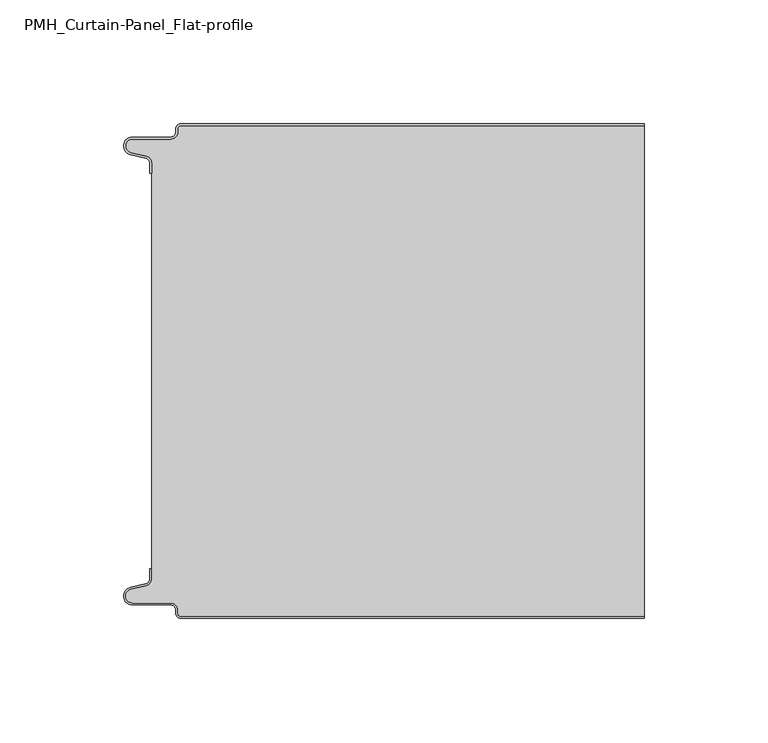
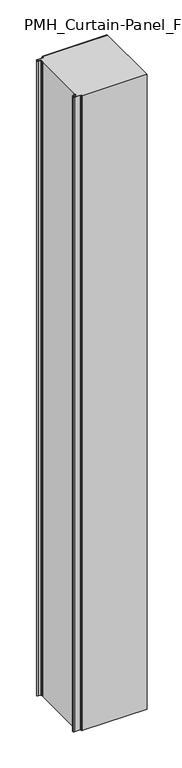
"""IFC4 building model written with IfcOpenShell, lengths in millimetres: plate geometry, PMH_Curtain-Panel_Flat-profile : ACH_PMH_Stone-wool-Panel_200M."""

from ifc_helpers import new_model, si_unit, point, frame_2d, origin, origin_with_axes, place, context, project, spatial, polyline, circle_curve, trimmed, segment, composite_curve, outline, extrude, source, transform, mapped, element, save


def pmh_curtain_panel_flat_profile_756ba8ea(model_context):
    return source(origin(), model_context, "Body", "SweptSolid", [
        extrude(outline(composite_curve([segment(trimmed(circle_curve(frame_2d((-87.4119739, -2.0)), 1.2), [point((-87.4119739, -0.8))], [point((-88.6119739, -2.0))], True, "CARTESIAN"), True, "CONTINUOUS"), segment(polyline([(-88.6119739, -2.0), (-88.6119739, -3.4)]), True, "CONTINUOUS"), segment(trimmed(circle_curve(frame_2d((-91.4119739, -3.4)), 2.8), [point((-88.6119739, -3.4))], [point((-91.4119739, -6.2))], False, "CARTESIAN"), True, "CONTINUOUS"), segment(polyline([(-91.4119739, -6.2), (-106.9119739, -6.2)]), True, "CONTINUOUS"), segment(trimmed(circle_curve(frame_2d((-106.9119739, -9.0)), 2.8), [point((-106.9119739, -6.2))], [point((-107.541837, -11.7282362))], True, "CARTESIAN"), True, "CONTINUOUS"), segment(polyline([(-107.541837, -11.7282362), (-101.3821109, -13.150321)]), True, "CONTINUOUS"), segment(trimmed(circle_curve(frame_2d((-102.0119739, -15.878557)), 2.8), [point((-101.3821109, -13.150321))], [point((-99.2119739, -15.878557))], False, "CARTESIAN"), True, "CONTINUOUS"), segment(polyline([(-99.2119739, -15.878557), (-99.2119739, -20.0), (-100.0119739, -20.0), (-100.0119739, -15.878557)]), True, "CONTINUOUS"), segment(trimmed(circle_curve(frame_2d((-102.0119739, -15.878557)), 2.0), [point((-100.0119739, -15.878557))], [point((-101.5620718, -13.9298169))], True, "CARTESIAN"), True, "CONTINUOUS"), segment(polyline([(-101.5620718, -13.9298169), (-107.7217978, -12.507732)]), True, "CONTINUOUS"), segment(trimmed(circle_curve(frame_2d((-106.9119739, -9.0)), 3.6), [point((-107.7217978, -12.507732))], [point((-106.9119739, -5.4))], False, "CARTESIAN"), True, "CONTINUOUS"), segment(polyline([(-106.9119739, -5.4), (-91.4119739, -5.4)]), True, "CONTINUOUS"), segment(trimmed(circle_curve(frame_2d((-91.4119739, -3.4)), 2.0), [point((-91.4119739, -5.4))], [point((-89.4119739, -3.4))], True, "CARTESIAN"), True, "CONTINUOUS"), segment(polyline([(-89.4119739, -3.4), (-89.4119739, -2.0)]), True, "CONTINUOUS"), segment(trimmed(circle_curve(frame_2d((-87.4119739, -2.0)), 2.0), [point((-89.4119739, -2.0))], [point((-87.4119739, 0.0))], False, "CARTESIAN"), True, "CONTINUOUS"), segment(polyline([(-87.4119739, 0.0), (100.0119739, 0.0), (100.0119739, -0.8), (-87.4119739, -0.8)]), True, "CONTINUOUS")], self_intersect=False)), origin_with_axes(), (0.0, 0.0, 1.0), 1945.7507136),
        extrude(outline(composite_curve([segment(polyline([(-99.2119739, -184.1214426), (-99.2119739, -15.8785573)]), True, "CONTINUOUS"), segment(trimmed(circle_curve(frame_2d((-102.0119739, -15.8785573)), 2.8), [point((-99.2119739, -15.8785573))], [point((-101.3821109, -13.1503212))], True, "CARTESIAN"), True, "CONTINUOUS"), segment(polyline([(-101.3821109, -13.1503212), (-107.541837, -11.7282362)]), True, "CONTINUOUS"), segment(trimmed(circle_curve(frame_2d((-106.911974, -9.0)), 2.8), [point((-107.541837, -11.7282362))], [point((-106.911974, -6.2))], False, "CARTESIAN"), True, "CONTINUOUS"), segment(polyline([(-106.911974, -6.2), (-91.411974, -6.2)]), True, "CONTINUOUS"), segment(trimmed(circle_curve(frame_2d((-91.411974, -3.4)), 2.8), [point((-91.411974, -6.2))], [point((-88.611974, -3.4))], True, "CARTESIAN"), True, "CONTINUOUS"), segment(polyline([(-88.611974, -3.4), (-88.611974, -2.0)]), True, "CONTINUOUS"), segment(trimmed(circle_curve(frame_2d((-87.411974, -2.0)), 1.2), [point((-88.611974, -2.0))], [point((-87.411974, -0.8))], False, "CARTESIAN"), True, "CONTINUOUS"), segment(polyline([(-87.411974, -0.8), (100.0119739, -0.8), (100.0119739, -199.2), (-87.411974, -199.2)]), True, "CONTINUOUS"), segment(trimmed(circle_curve(frame_2d((-87.411974, -198.0)), 1.2), [point((-87.411974, -199.2))], [point((-88.611974, -198.0))], False, "CARTESIAN"), True, "CONTINUOUS"), segment(polyline([(-88.611974, -198.0), (-88.611974, -196.6)]), True, "CONTINUOUS"), segment(trimmed(circle_curve(frame_2d((-91.411974, -196.6)), 2.8), [point((-88.611974, -196.6))], [point((-91.411974, -193.8))], True, "CARTESIAN"), True, "CONTINUOUS"), segment(polyline([(-91.411974, -193.8), (-106.911974, -193.8)]), True, "CONTINUOUS"), segment(trimmed(circle_curve(frame_2d((-106.911974, -191.0)), 2.8), [point((-106.911974, -193.8))], [point((-107.541837, -188.2717638))], False, "CARTESIAN"), True, "CONTINUOUS"), segment(polyline([(-107.541837, -188.2717638), (-101.3821109, -186.8496788)]), True, "CONTINUOUS"), segment(trimmed(circle_curve(frame_2d((-102.0119739, -184.1214426)), 2.8), [point((-101.3821109, -186.8496788))], [point((-99.2119739, -184.1214426))], True, "CARTESIAN"), True, "CONTINUOUS")], self_intersect=False)), origin_with_axes(), (0.0, 0.0, 1.0), 1945.7507136),
        extrude(outline(composite_curve([segment(trimmed(circle_curve(frame_2d((-87.4119739, -198.0)), 2.0), [point((-87.4119739, -200.0))], [point((-89.4119739, -198.0))], False, "CARTESIAN"), True, "CONTINUOUS"), segment(polyline([(-89.4119739, -198.0), (-89.4119739, -196.6)]), True, "CONTINUOUS"), segment(trimmed(circle_curve(frame_2d((-91.4119739, -196.6)), 2.0), [point((-89.4119739, -196.6))], [point((-91.4119739, -194.6))], True, "CARTESIAN"), True, "CONTINUOUS"), segment(polyline([(-91.4119739, -194.6), (-106.9119739, -194.6)]), True, "CONTINUOUS"), segment(trimmed(circle_curve(frame_2d((-106.9119739, -191.0)), 3.6), [point((-106.9119739, -194.6))], [point((-107.7217979, -187.4922678))], False, "CARTESIAN"), True, "CONTINUOUS"), segment(polyline([(-107.7217979, -187.4922678), (-101.5620718, -186.070183)]), True, "CONTINUOUS"), segment(trimmed(circle_curve(frame_2d((-102.0119739, -184.121443)), 2.0), [point((-101.5620718, -186.070183))], [point((-100.0119739, -184.121443))], True, "CARTESIAN"), True, "CONTINUOUS"), segment(polyline([(-100.0119739, -184.121443), (-100.0119739, -180.0), (-99.2119739, -180.0), (-99.2119739, -184.121443)]), True, "CONTINUOUS"), segment(trimmed(circle_curve(frame_2d((-102.0119739, -184.121443)), 2.8), [point((-99.2119739, -184.121443))], [point((-101.3821109, -186.8496792))], False, "CARTESIAN"), True, "CONTINUOUS"), segment(polyline([(-101.3821109, -186.8496792), (-107.5418369, -188.271764)]), True, "CONTINUOUS"), segment(trimmed(circle_curve(frame_2d((-106.9119739, -191.0)), 2.8), [point((-107.5418369, -188.271764))], [point((-106.9119739, -193.8))], True, "CARTESIAN"), True, "CONTINUOUS"), segment(polyline([(-106.9119739, -193.8), (-91.4119739, -193.8)]), True, "CONTINUOUS"), segment(trimmed(circle_curve(frame_2d((-91.4119739, -196.6)), 2.8), [point((-91.4119739, -193.8))], [point((-88.6119739, -196.6))], False, "CARTESIAN"), True, "CONTINUOUS"), segment(polyline([(-88.6119739, -196.6), (-88.6119739, -198.0)]), True, "CONTINUOUS"), segment(trimmed(circle_curve(frame_2d((-87.4119739, -198.0)), 1.2), [point((-88.6119739, -198.0))], [point((-87.4119739, -199.2))], True, "CARTESIAN"), True, "CONTINUOUS"), segment(polyline([(-87.4119739, -199.2), (100.0119739, -199.2), (100.0119739, -200.0), (-87.4119739, -200.0)]), True, "CONTINUOUS")], self_intersect=False)), origin_with_axes(), (0.0, 0.0, 1.0), 1945.7507136),
    ])


if __name__ == "__main__":
    model = new_model("IFC4")
    model_context = context("Model", 3, world=origin())
    ifc_project = project(units=[si_unit("LENGTHUNIT", "METRE", prefix="MILLI")], contexts=[model_context])
    site = spatial("IfcSite", under=ifc_project)
    building = spatial("IfcBuilding", under=site)
    placement = place(None, origin())
    pmh_curtain_panel_flat_profile_shape = pmh_curtain_panel_flat_profile_756ba8ea(model_context)
    element("IfcPlate", 1, ObjectType="PMH_Curtain-Panel_Flat-profile : ACH_PMH_Stone-wool-Panel_200M", at=placement, inside=building, context=model_context, shape_type="MappedRepresentation", body=[
        mapped(pmh_curtain_panel_flat_profile_shape, transform((0.0, 0.0, 0.0), x_axis=(1.0, 0.0, 0.0), y_axis=(0.0, 1.0, 0.0), z_axis=(0.0, 0.0, 1.0))),
    ])
    save(model, "model.ifc")
